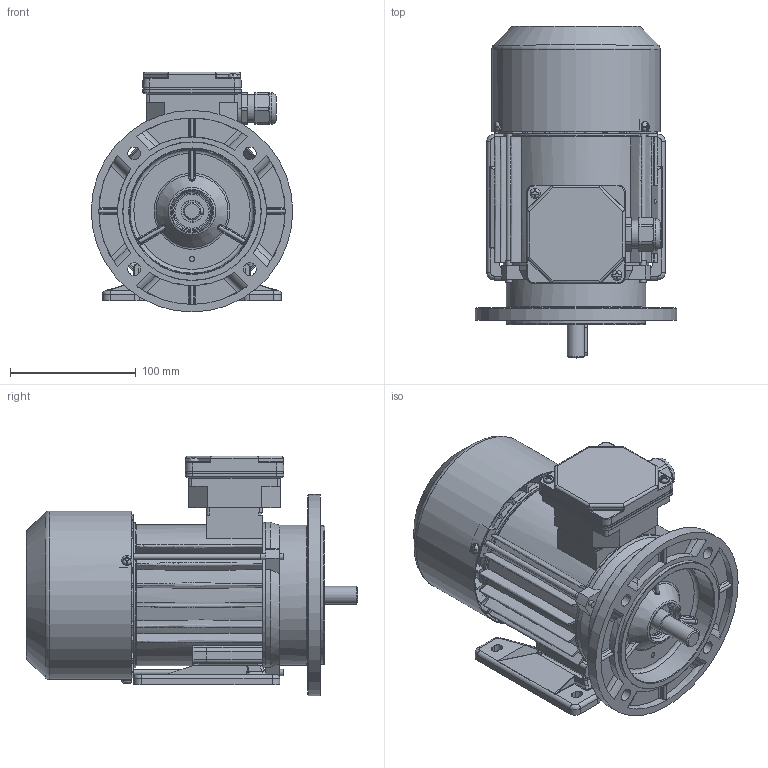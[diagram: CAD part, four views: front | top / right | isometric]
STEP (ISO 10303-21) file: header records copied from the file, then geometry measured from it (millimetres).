
FILE_DESCRIPTION(/* description */ ('Unknown'),/* implementation_level */ '2;1');
FILE_NAME(/* name */ '2SIEL71-4B',/* time_stamp */ '2021-04-13T15:26:44+02:00',/* author */ ('Unknown'),/* organization */ ('Unknown'),/* preprocessor_version */ 'ST-DEVELOPER v16.7',/* originating_system */ 'Solid Edge',/* authorisation */ 'Unknown');
FILE_SCHEMA (('AUTOMOTIVE_DESIGN {1 0 10303 214 3 1 1}'));
Products named in the file (1): 2SIEL71-4B
Bounding box: 160 x 263.49 x 190.5 mm (x, y, z)
Volume: 796445.7 mm3; surface area: 452010 mm2
Topology: 2 solids, 2 shells, 2472 faces, 6860 edges, 4379 vertices
Faces by surface type: plane 1029, cylinder 719, bspline 384, torus 173, cone 141, sphere 26
Full cylindrical faces by diameter (mm): 3.7 x4, 3.8 x4, 4 x3, 4.6 x3, 4.8 x2, 5 x8, 5.5 x3, 5.8 x4, 7 x1, 8 x9, 10 x4, 13.999 x1, 15.898 x1, 16.098 x1, 16.498 x1, 16.998 x2, 17.4 x2, 21.998 x2, 22.3 x1, 22.498 x1, 23.098 x1, 23.998 x1, 24.496 x4, 25 x1, 27 x1, 28 x1, 30 x1, 31 x1, 32.502 x4, 36 x2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
Entity records: 105257 total; most frequent: CARTESIAN_POINT 28913, ORIENTED_EDGE 13010, DIRECTION 11307, EDGE_CURVE 6505, VERTEX_POINT 4254, AXIS2_PLACEMENT_3D 4222, FACE_BOUND 2885, EDGE_LOOP 2881
